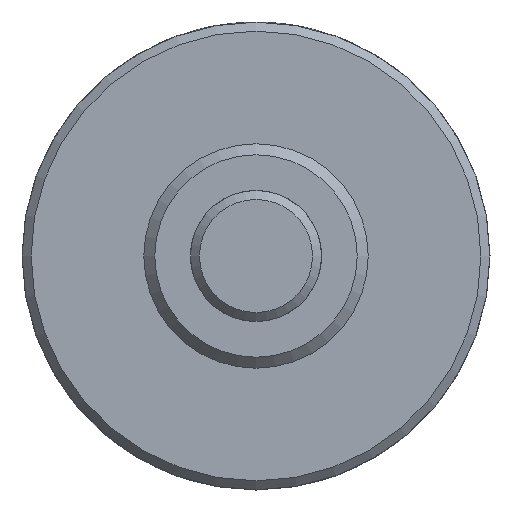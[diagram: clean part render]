
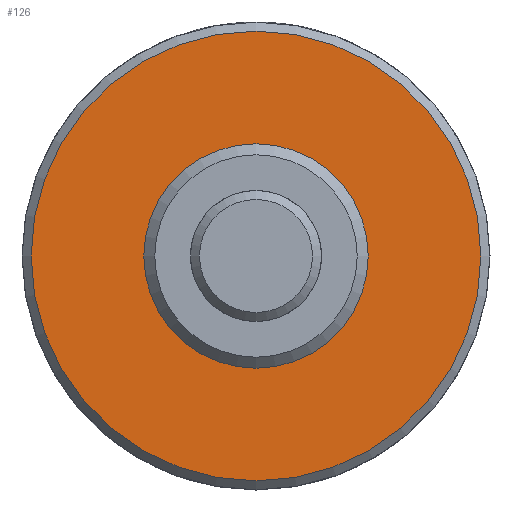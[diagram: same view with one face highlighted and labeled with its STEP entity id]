
A CAD part, left-side view. The second image highlights one B-rep face of the part: STEP entity #126.
In plain terms, the highlighted planar face has unit normal (-1, 0, 0).
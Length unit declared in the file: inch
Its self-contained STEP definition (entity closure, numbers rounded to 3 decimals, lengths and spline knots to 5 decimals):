
#126 = ADVANCED_FACE( '', ( #269, #270 ), #271, .F. );
#269 = FACE_OUTER_BOUND( '', #465, .T. );
#270 = FACE_BOUND( '', #466, .T. );
#271 = PLANE( '', #467 );
#465 = EDGE_LOOP( '', ( #677 ) );
#466 = EDGE_LOOP( '', ( #678 ) );
#467 = AXIS2_PLACEMENT_3D( '', #679, #680, #681 );
#677 = ORIENTED_EDGE( '', *, *, #1000, .F. );
#678 = ORIENTED_EDGE( '', *, *, #1001, .T. );
#679 = CARTESIAN_POINT( '', ( 0.625, 0.3745, 0. ) );
#680 = DIRECTION( '', ( 1., 0., 0. ) );
#681 = DIRECTION( '', ( 0., 0., -1. ) );
#1000 = EDGE_CURVE( '', #1139, #1139, #1140, .T. );
#1001 = EDGE_CURVE( '', #1141, #1141, #1142, .T. );
#1139 = VERTEX_POINT( '', #1333 );
#1140 = CIRCLE( '', #1334, 0.7515 );
#1141 = VERTEX_POINT( '', #1335 );
#1142 = CIRCLE( '', #1336, 0.3745 );
#1333 = CARTESIAN_POINT( '', ( 0.625, 0., -0.7515 ) );
#1334 = AXIS2_PLACEMENT_3D( '', #1586, #1587, #1588 );
#1335 = CARTESIAN_POINT( '', ( 0.625, 0., -0.3745 ) );
#1336 = AXIS2_PLACEMENT_3D( '', #1589, #1590, #1591 );
#1586 = CARTESIAN_POINT( '', ( 0.625, 0., 0. ) );
#1587 = DIRECTION( '', ( 1., 0., 0. ) );
#1588 = DIRECTION( '', ( 0., 0., -1. ) );
#1589 = CARTESIAN_POINT( '', ( 0.625, 0., 0. ) );
#1590 = DIRECTION( '', ( 1., 0., 0. ) );
#1591 = DIRECTION( '', ( 0., 0., -1. ) );
